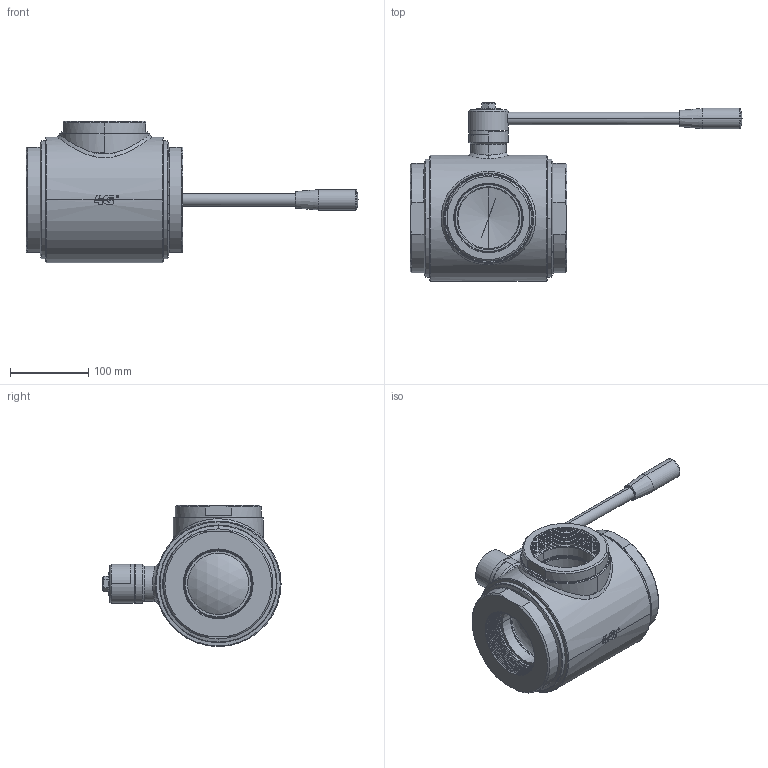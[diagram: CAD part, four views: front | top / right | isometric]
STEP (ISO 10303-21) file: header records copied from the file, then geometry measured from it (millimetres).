
FILE_DESCRIPTION((''),'2;1');
FILE_NAME('35010164810_SW0001','2025-04-03T09:37:20',('tecnico2'),('CDM Tecnoconsulting'),'CREO PARAMETRIC BY PTC INC, 2024063','CREO PARAMETRIC BY PTC INC, 2024063','');
FILE_SCHEMA(('CONFIG_CONTROL_DESIGN','SHAPE_APPEARANCE_LAYERS_GROUPS'));
Products named in the file (1): 35010164810_SW0001
Bounding box: 423 x 226.8 x 180 mm (x, y, z)
Volume: 2529401 mm3; surface area: 381303.6 mm2
Topology: 1 solids, 1 shells, 801 faces, 2156 edges, 1363 vertices
Faces by surface type: plane 291, cylinder 228, cone 114, bspline 76, extrusion 55, torus 32, sphere 5
Entity records: 68288 total; most frequent: CARTESIAN_POINT 41625, ORIENTED_EDGE 4276, DIRECTION 3404, PRESENTATION_STYLE_ASSIGNMENT 2315, STYLED_ITEM 2139, CURVE_STYLE 2138, EDGE_CURVE 2138, VERTEX_POINT 1363
